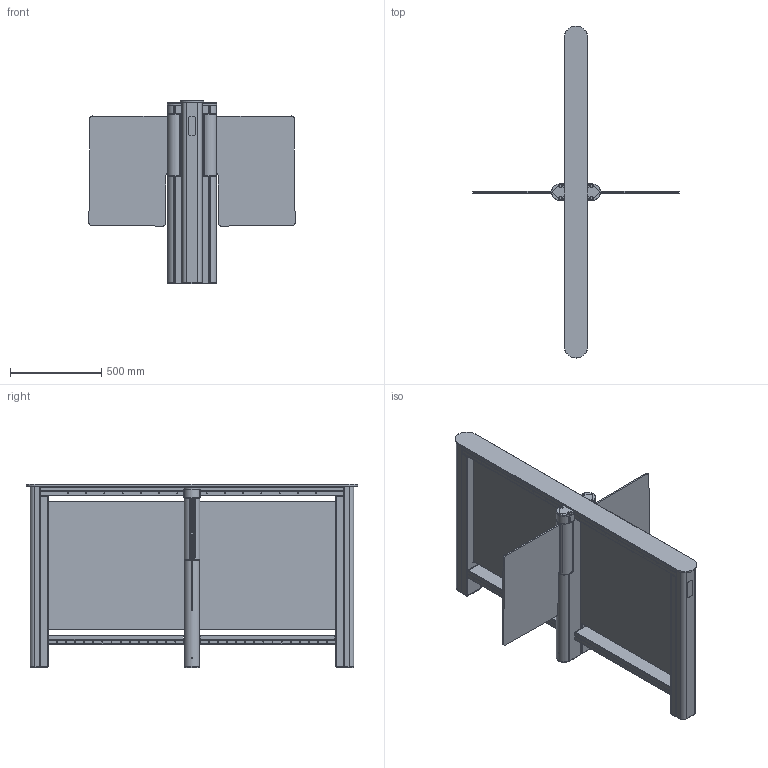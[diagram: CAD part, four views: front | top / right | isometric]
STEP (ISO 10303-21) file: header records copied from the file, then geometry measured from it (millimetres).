
FILE_DESCRIPTION(/* description */ ('Unknown'),/* implementation_level */ '2;1');
FILE_NAME(/* name */ 'ST-01_D_900',/* time_stamp */ '2021-12-23T13:34:50+03:00',/* author */ ('Unknown'),/* organization */ ('Unknown'),/* preprocessor_version */ 'ST-DEVELOPER v18.1',/* originating_system */ 'Solid Edge',/* authorisation */ 'Unknown');
FILE_SCHEMA (('CONFIG_CONTROL_DESIGN'));
Products named in the file (160): ST-01_D; ST-01.1.006.00 砎魤鍱_oa_0; ST-01.1.002.00 栺鍣罻_oa_1; ST-01.1.002.02 砑僔蠂縺; ST-01.1.005.08 扻豵鵨; ST-01.1.031.00 沓劌錪 瀔魤鍱趌oa_2; ST-01.1.036.00 昜闉趌oa_3; BG65x25+PLG52+mufta_oa_4; ST-01.045.00ﾑﾁ ﾊ濱oa_5; ST-01.046.00 ﾊ濱oa_6; ST-01.046.09 Êîæóõ-Ïî óìîë÷àíèþ; ST-01.047.00 扰鍙欙樥燲oa_7; ST-01.047.04 Êðîíøòåéí-Ïî óìîë÷àíèþ; ST-01.760.00 Ïëàòà ýëåêòðîïðèâîäà_oa_8; ST-01.920.00 Êàáåëü ñîåäèíåíèÿ CAN; ST-01.1.004.00捘 昜闉趌oa_9; ST-01.1.004.06 Îïîðà; ST-01.008.00 ﾊ濱oa_10; ST-01.008.05 Êîæóõ; ST-01.008.00 ﾊ濱oa_11; ST-01.900.00 Êàáåëü ñîåäèíåíèÿ  DC; Äæàìïåð MJ-0_13; 淟檍瀖睯貗; ST-01.1.006.00 砎魤鍱_oa_12; ST-01.1.002.00 栺鍣罻_oa_13; ST-01.1.031.00 沓劌錪 瀔魤鍱趌oa_14; ST-01.1.036.00 昜闉趌oa_15; BG65x25+PLG52+mufta_oa_16; ST-01.045.00ﾑﾁ ﾊ濱oa_17; ST-01.046.00 ﾊ濱oa_18; ST-01.047.00 扰鍙欙樥燲oa_19; ST-01.760.00 Ïëàòà ýëåêòðîïðèâîäà_oa_20; ST-01.771.00 Ïëàòà óïðàâëåíèÿ_oa_21; Ïëîùàäêà ñàìîêëåþùàÿñÿ-c õîìóòîì; ST-01.922.00 忺摎錪 嚦鍣膱 CAN 椿; ST-01.1.004.00捘 昜闉趌oa_22; ST-01.008.00 ﾊ濱oa_23; ST-01.008.00 ﾊ濱oa_24; ST-01.921.00 忺摎錪 CAN 椿; RTD-03.715.00 Ïåðåìû÷êà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
Assembly tree (222 placements, depth 5):
  ST-01_D
    ST-01.1.006.00 砎魤鍱_oa_0
      ST-01.1.002.00 栺鍣罻_oa_1
        ST-01.1.002.02 砑僔蠂縺
      ST-01.1.005.08 扻豵鵨
      ST-01.1.031.00 沓劌錪 瀔魤鍱趌oa_2
        ST-01.1.036.00 昜闉趌oa_3
        BG65x25+PLG52+mufta_oa_4
      ST-01.045.00ﾑﾁ ﾊ濱oa_5
        ST-01.046.00 ﾊ濱oa_6
          ST-01.046.09 Êîæóõ-Ïî óìîë÷àíèþ
        ST-01.047.00 扰鍙欙樥燲oa_7
          ST-01.047.04 Êðîíøòåéí-Ïî óìîë÷àíèþ
      ST-01.760.00 Ïëàòà ýëåêòðîïðèâîäà_oa_8
      ST-01.920.00 Êàáåëü ñîåäèíåíèÿ CAN
      ST-01.1.004.00捘 昜闉趌oa_9
        ST-01.1.004.06 Îïîðà
      ST-01.008.00 ﾊ濱oa_10
        ST-01.008.05 Êîæóõ
      ST-01.008.00 ﾊ濱oa_11
        ST-01.008.05 Êîæóõ
      ST-01.900.00 Êàáåëü ñîåäèíåíèÿ  DC
      Äæàìïåð MJ-0_13
      淟檍瀖睯貗  x3
    ST-01.1.006.00 砎魤鍱_oa_12
      ST-01.1.002.00 栺鍣罻_oa_13
        ST-01.1.002.02 砑僔蠂縺
      ST-01.1.005.08 扻豵鵨
      ST-01.1.031.00 沓劌錪 瀔魤鍱趌oa_14
        ST-01.1.036.00 昜闉趌oa_15
        BG65x25+PLG52+mufta_oa_16
      ST-01.045.00ﾑﾁ ﾊ濱oa_17
        ST-01.046.00 ﾊ濱oa_18
          ST-01.046.09 Êîæóõ-Ïî óìîë÷àíèþ
        ST-01.047.00 扰鍙欙樥燲oa_19
          ST-01.047.04 Êðîíøòåéí-Ïî óìîë÷àíèþ
      ST-01.760.00 Ïëàòà ýëåêòðîïðèâîäà_oa_20
      ST-01.771.00 Ïëàòà óïðàâëåíèÿ_oa_21
      Ïëîùàäêà ñàìîêëåþùàÿñÿ-c õîìóòîì
      ST-01.922.00 忺摎錪 嚦鍣膱 CAN 椿
      ST-01.1.004.00捘 昜闉趌oa_22
        ST-01.1.004.06 Îïîðà
      ST-01.008.00 ﾊ濱oa_23
        ST-01.008.05 Êîæóõ
      ST-01.008.00 ﾊ濱oa_24
        ST-01.008.05 Êîæóõ
      ST-01.921.00 忺摎錪 CAN 椿
      淟檍瀖睯貗  x3
      RTD-03.715.00 Ïåðåìû÷êà
      ST-01.923.00 忺摎錪 嚦鍣膱 CAN
      ST-01.905.00 忺摎錪 DC 椿
    ST-01.1.010.00ﾑﾁ ﾊ濱oa_25
      ST-01.740.00 Ïëàòà èíäèêàòîðíîé ñòîéêè_oa_26
      ST-01.1.010.10 Ñòåêëî-Ïî óìîë÷àíèþ
      ST-01.1.011.00 ﾊ濱oa_27
        ST-01.1.011.05 署赅
      ST-01.1.009.00捘 扻豵鵨_oa_28
        ST-01.009.25 Êîæóõ
        ST-01.1.009.07 扻豵鵨
    ST-01.013.00 扻豂塺oa_29
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Bounding box: 1130.38 x 1820 x 1004.7 mm (x, y, z)
Volume: 21689595.3 mm3; surface area: 10559368.4 mm2
Topology: 64 solids, 64 shells, 3543 faces, 9311 edges, 5872 vertices
Faces by surface type: plane 2508, cylinder 831, bspline 164, cone 32, torus 8
Full cylindrical faces by diameter (mm): 3.3 x44, 3.5 x12, 4 x13, 4.2 x5, 5 x104, 5.5 x8, 6 x10, 7 x18, 8 x1, 9 x1, 10 x6, 11 x18, 12 x16, 13.5 x4, 16 x4, 82.099 x1, 87 x2
Entity records: 77018 total; most frequent: CARTESIAN_POINT 17658, ORIENTED_EDGE 11542, DIRECTION 11161, EDGE_CURVE 5771, LINE 4389, VECTOR 4389, VERTEX_POINT 3774, AXIS2_PLACEMENT_3D 3386
